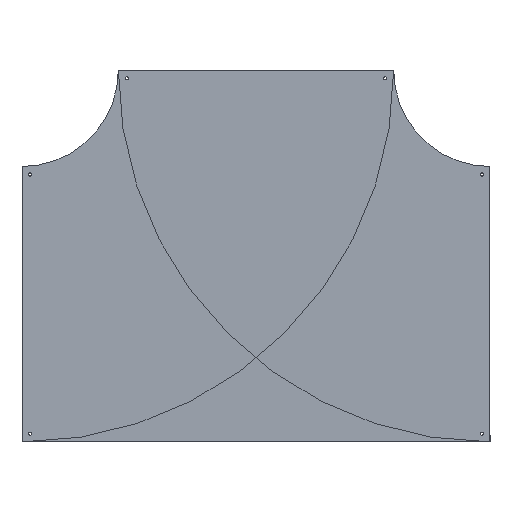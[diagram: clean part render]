
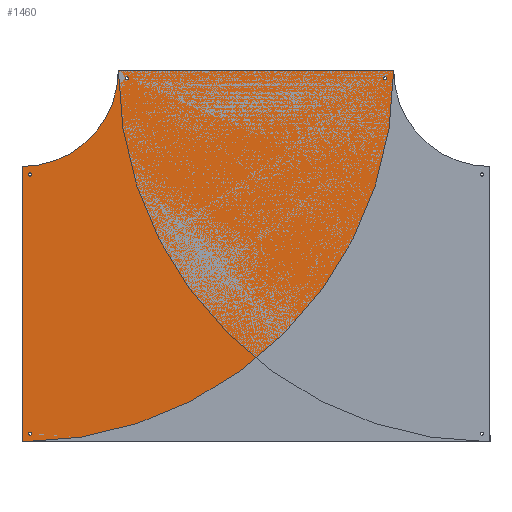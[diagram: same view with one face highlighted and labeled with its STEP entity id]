
A CAD part, top view. The second image highlights one B-rep face of the part: STEP entity #1460.
In plain terms, the highlighted planar face has unit normal (0, 0, 1).
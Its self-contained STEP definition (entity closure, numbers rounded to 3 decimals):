
#89=FACE_BOUND('',#365,.T.);
#90=FACE_BOUND('',#366,.T.);
#91=FACE_BOUND('',#367,.T.);
#92=FACE_BOUND('',#368,.T.);
#149=CIRCLE('',#1604,1151.5);
#150=CIRCLE('',#1605,298.5);
#151=CIRCLE('',#1606,5.);
#152=CIRCLE('',#1607,5.);
#153=CIRCLE('',#1608,5.);
#154=CIRCLE('',#1609,5.);
#155=CIRCLE('',#1610,5.);
#156=CIRCLE('',#1611,5.);
#157=CIRCLE('',#1612,5.);
#158=CIRCLE('',#1613,5.);
#268=FACE_OUTER_BOUND('',#364,.T.);
#364=EDGE_LOOP('',(#1224,#1225,#1226,#1227));
#365=EDGE_LOOP('',(#1228,#1229));
#366=EDGE_LOOP('',(#1230,#1231));
#367=EDGE_LOOP('',(#1232,#1233));
#368=EDGE_LOOP('',(#1234,#1235));
#488=LINE('',#2427,#602);
#492=LINE('',#2436,#606);
#602=VECTOR('',#1972,304.8);
#606=VECTOR('',#1978,304.8);
#718=VERTEX_POINT('',#2425);
#719=VERTEX_POINT('',#2426);
#722=VERTEX_POINT('',#2434);
#723=VERTEX_POINT('',#2435);
#726=VERTEX_POINT('',#2445);
#727=VERTEX_POINT('',#2446);
#728=VERTEX_POINT('',#2449);
#729=VERTEX_POINT('',#2450);
#730=VERTEX_POINT('',#2453);
#731=VERTEX_POINT('',#2454);
#732=VERTEX_POINT('',#2457);
#733=VERTEX_POINT('',#2458);
#892=EDGE_CURVE('',#718,#719,#488,.T.);
#896=EDGE_CURVE('',#722,#723,#492,.T.);
#900=EDGE_CURVE('',#718,#723,#149,.T.);
#901=EDGE_CURVE('',#722,#719,#150,.T.);
#902=EDGE_CURVE('',#726,#727,#151,.T.);
#903=EDGE_CURVE('',#727,#726,#152,.T.);
#904=EDGE_CURVE('',#728,#729,#153,.T.);
#905=EDGE_CURVE('',#729,#728,#154,.T.);
#906=EDGE_CURVE('',#730,#731,#155,.T.);
#907=EDGE_CURVE('',#731,#730,#156,.T.);
#908=EDGE_CURVE('',#732,#733,#157,.T.);
#909=EDGE_CURVE('',#733,#732,#158,.T.);
#1224=ORIENTED_EDGE('',*,*,#892,.F.);
#1225=ORIENTED_EDGE('',*,*,#900,.T.);
#1226=ORIENTED_EDGE('',*,*,#896,.F.);
#1227=ORIENTED_EDGE('',*,*,#901,.T.);
#1228=ORIENTED_EDGE('',*,*,#902,.T.);
#1229=ORIENTED_EDGE('',*,*,#903,.T.);
#1230=ORIENTED_EDGE('',*,*,#904,.T.);
#1231=ORIENTED_EDGE('',*,*,#905,.T.);
#1232=ORIENTED_EDGE('',*,*,#906,.T.);
#1233=ORIENTED_EDGE('',*,*,#907,.T.);
#1234=ORIENTED_EDGE('',*,*,#908,.T.);
#1235=ORIENTED_EDGE('',*,*,#909,.T.);
#1396=PLANE('',#1603);
#1460=ADVANCED_FACE('',(#268,#89,#90,#91,#92),#1396,.T.);
#1603=AXIS2_PLACEMENT_3D('',#2442,#1982,#1983);
#1604=AXIS2_PLACEMENT_3D('',#2443,#1984,#1985);
#1605=AXIS2_PLACEMENT_3D('',#2444,#1986,#1987);
#1606=AXIS2_PLACEMENT_3D('',#2447,#1988,#1989);
#1607=AXIS2_PLACEMENT_3D('',#2448,#1990,#1991);
#1608=AXIS2_PLACEMENT_3D('',#2451,#1992,#1993);
#1609=AXIS2_PLACEMENT_3D('',#2452,#1994,#1995);
#1610=AXIS2_PLACEMENT_3D('',#2455,#1996,#1997);
#1611=AXIS2_PLACEMENT_3D('',#2456,#1998,#1999);
#1612=AXIS2_PLACEMENT_3D('',#2459,#2000,#2001);
#1613=AXIS2_PLACEMENT_3D('',#2460,#2002,#2003);
#1972=DIRECTION('',(0.,1.,0.));
#1978=DIRECTION('',(1.,0.,0.));
#1982=DIRECTION('center_axis',(0.,0.,1.));
#1983=DIRECTION('ref_axis',(0.,-1.,0.));
#1984=DIRECTION('center_axis',(0.,0.,1.));
#1985=DIRECTION('ref_axis',(0.,-1.,0.));
#1986=DIRECTION('center_axis',(0.,0.,-1.));
#1987=DIRECTION('ref_axis',(0.,-1.,0.));
#1988=DIRECTION('center_axis',(0.,0.,-1.));
#1989=DIRECTION('ref_axis',(1.,0.,0.));
#1990=DIRECTION('center_axis',(0.,0.,-1.));
#1991=DIRECTION('ref_axis',(1.,0.,0.));
#1992=DIRECTION('center_axis',(0.,0.,-1.));
#1993=DIRECTION('ref_axis',(1.,0.,0.));
#1994=DIRECTION('center_axis',(0.,0.,-1.));
#1995=DIRECTION('ref_axis',(1.,0.,0.));
#1996=DIRECTION('center_axis',(0.,0.,-1.));
#1997=DIRECTION('ref_axis',(1.,0.,0.));
#1998=DIRECTION('center_axis',(0.,0.,-1.));
#1999=DIRECTION('ref_axis',(1.,0.,0.));
#2000=DIRECTION('center_axis',(0.,0.,-1.));
#2001=DIRECTION('ref_axis',(1.,0.,0.));
#2002=DIRECTION('center_axis',(0.,0.,-1.));
#2003=DIRECTION('ref_axis',(1.,0.,0.));
#2425=CARTESIAN_POINT('',(-725.,-426.5,1.5));
#2426=CARTESIAN_POINT('',(-725.,426.5,1.5));
#2427=CARTESIAN_POINT('',(-725.,-426.5,1.5));
#2434=CARTESIAN_POINT('',(-426.5,725.,1.5));
#2435=CARTESIAN_POINT('',(426.5,725.,1.5));
#2436=CARTESIAN_POINT('',(-426.5,725.,1.5));
#2442=CARTESIAN_POINT('Origin',(-725.,725.,1.5));
#2443=CARTESIAN_POINT('Origin',(-725.,725.,1.5));
#2444=CARTESIAN_POINT('Origin',(-725.,725.,1.5));
#2445=CARTESIAN_POINT('',(-695.,-401.5,1.5));
#2446=CARTESIAN_POINT('',(-705.,-401.5,1.5));
#2447=CARTESIAN_POINT('Origin',(-700.,-401.5,1.5));
#2448=CARTESIAN_POINT('Origin',(-700.,-401.5,1.5));
#2449=CARTESIAN_POINT('',(-695.,401.5,1.5));
#2450=CARTESIAN_POINT('',(-705.,401.5,1.5));
#2451=CARTESIAN_POINT('Origin',(-700.,401.5,1.5));
#2452=CARTESIAN_POINT('Origin',(-700.,401.5,1.5));
#2453=CARTESIAN_POINT('',(-395.,700.,1.5));
#2454=CARTESIAN_POINT('',(-405.,700.,1.5));
#2455=CARTESIAN_POINT('Origin',(-400.,700.,1.5));
#2456=CARTESIAN_POINT('Origin',(-400.,700.,1.5));
#2457=CARTESIAN_POINT('',(405.,700.,1.5));
#2458=CARTESIAN_POINT('',(395.,700.,1.5));
#2459=CARTESIAN_POINT('Origin',(400.,700.,1.5));
#2460=CARTESIAN_POINT('Origin',(400.,700.,1.5));
